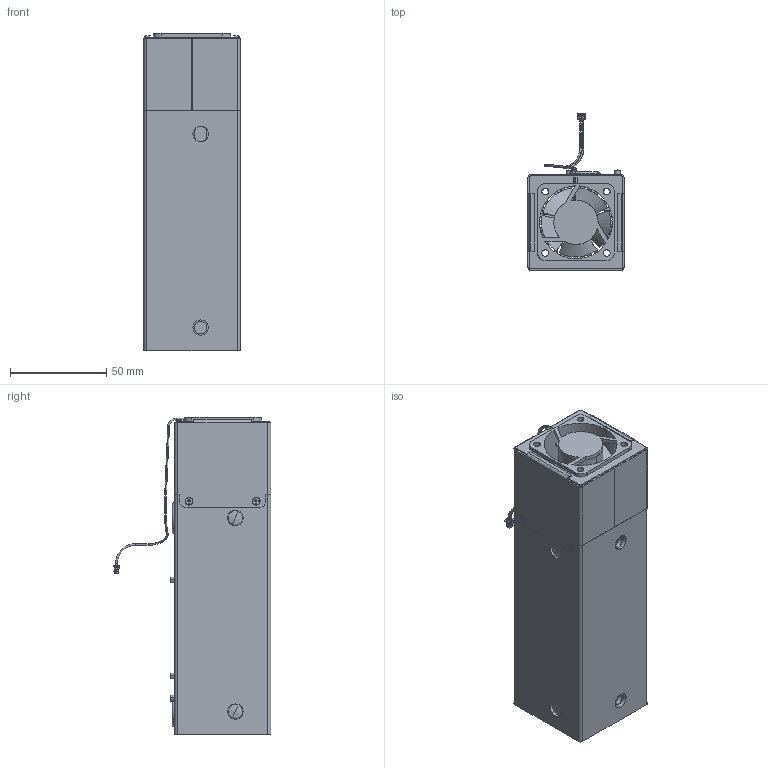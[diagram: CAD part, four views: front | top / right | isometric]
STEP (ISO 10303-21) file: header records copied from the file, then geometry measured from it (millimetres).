
FILE_DESCRIPTION (( 'STEP AP203' ), '1' );
FILE_NAME ('Obis Heat Sink.STEP', '2011-04-21T14:25:43', ( 'inst' ), ( '' ), 'SwSTEP 2.0', 'SolidWorks 2011', '' );
FILE_SCHEMA (( 'CONFIG_CONTROL_DESIGN' ));
Length unit declared in the file: millimetre
Products named in the file (1): Obis Heat Sink
Bounding box: 50 x 81.94 x 165.2 mm (x, y, z)
Volume: 192471.5 mm3; surface area: 162884.8 mm2
Topology: 23 solids, 23 shells, 1285 faces, 3547 edges, 2311 vertices
Faces by surface type: plane 611, cylinder 579, cone 35, torus 30, sphere 16, bspline 14
Entity records: 43198 total; most frequent: CARTESIAN_POINT 10671, ORIENTED_EDGE 7074, DIRECTION 6552, EDGE_CURVE 3537, VERTEX_POINT 2311, AXIS2_PLACEMENT_3D 2278, LINE 1996, VECTOR 1996
